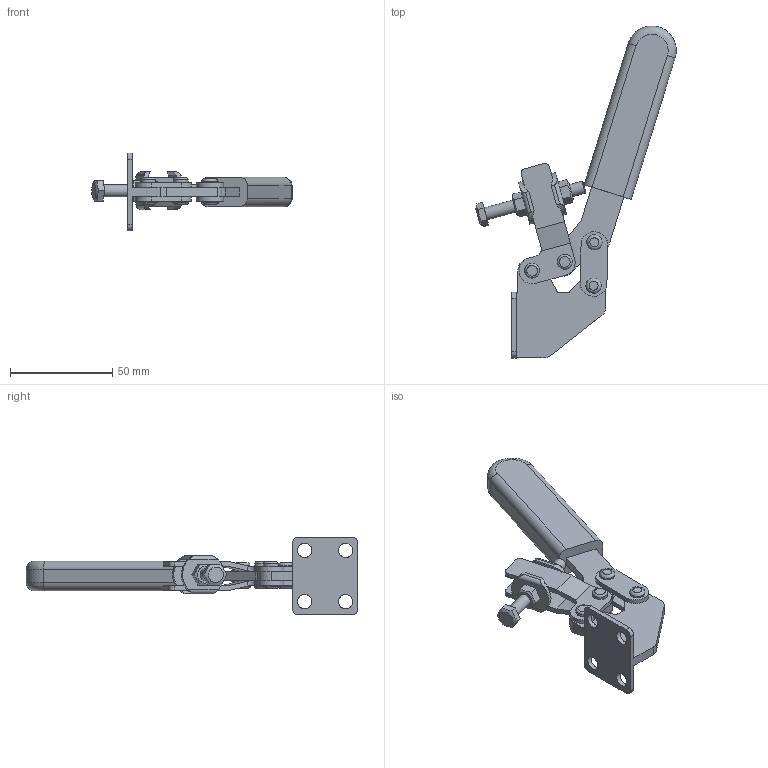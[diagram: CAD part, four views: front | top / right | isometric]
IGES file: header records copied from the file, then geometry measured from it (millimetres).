
Global section: file name: No.38CS(38CS-2S)(ul); native system: Autodesk Inventor 2020; preprocessor: unknown; author: y-takahashi; date: 20211201.101716; units: millimetre
Bounding box: 97.87 x 161.99 x 38 mm (x, y, z)
Volume: 49670.9 mm3; surface area: 30134.2 mm2
Topology: 11 solids, 11 shells, 221 faces, 516 edges, 343 vertices
Faces by surface type: bspline 221
